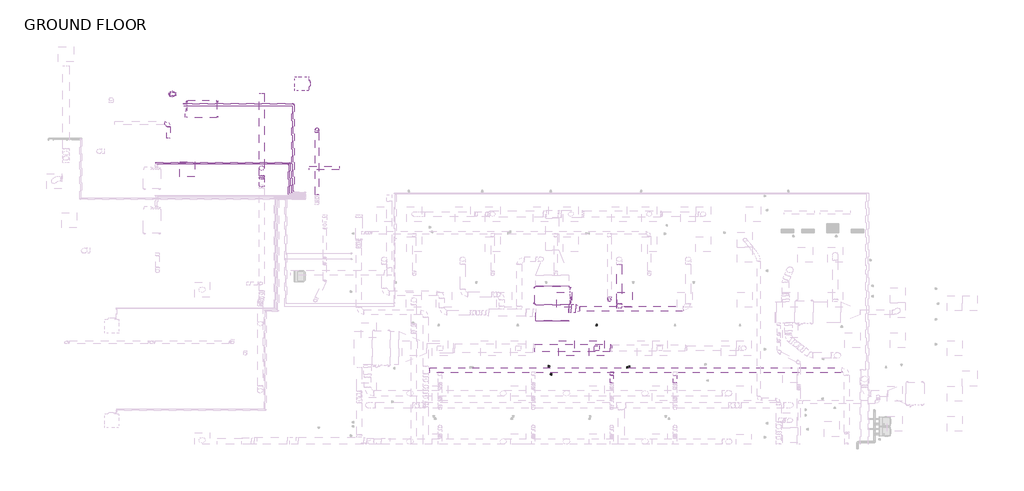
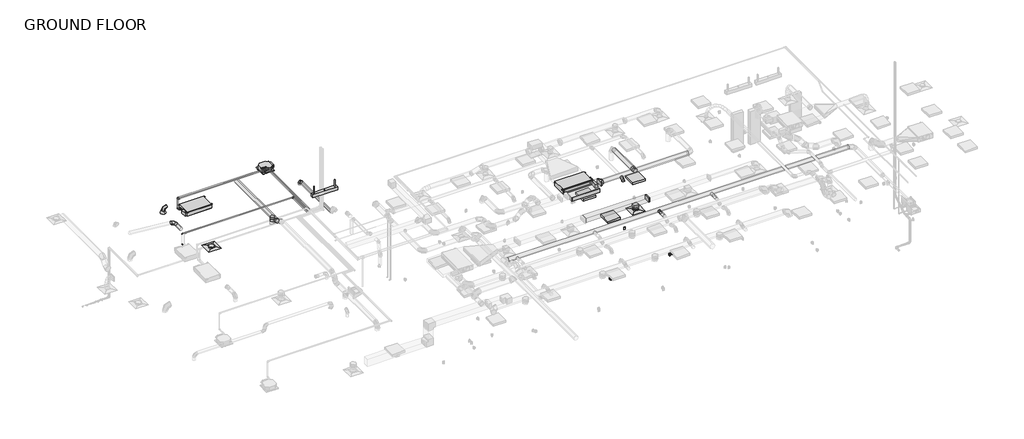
# One storey, part 16 of 20: 17 duct segments, 16 duct fittings, 12 pipe fittings, 12 pipe segments, 7 proxies, 4 light fixtures, 2 air terminals, 1 switching device.
"""IFC4 building model written with IfcOpenShell, lengths in millimetres."""

from ifc_helpers import new_model, si_unit, point, frame, frame_2d, origin, place, context, project, spatial, polyline, circle_curve, trimmed, segment, composite_curve, outline, extrude, transform, mapped, element, save
from components import air_terminal_a1f6e78c, air_terminal_e9020785, mechanical_equipment_d478180c, mechanical_equipment_2d84379e, mechanical_equipment_2ac3c092, duplex_receptacle_countertop_10251bba, rectangular_endcap_standard_3ad2bc23, rectangular_takeoff_standard_68f80ab3, rectangular_takeoff_standard_d07ea574, rectangular_transition_angle_45_degree_4bc87dcf, rectangular_transition_angle_45_degree_1d311e81, rectangular_to_round_transition_angle_45_degree_8ccbb142, rectangular_to_round_transition_angle_45_degree_5a025447, round_elbow_1_d_b37ad80b, round_elbow_1_d_c80420c1, round_elbow_1_d_e295ca55, round_takeoff_standard_272bb003, round_takeoff_standard_aff246af, round_transition_angle_45_degree_b52f7b1d, suspended_fluorescent_strip_non_hosted_strip_light_1x4_120v_5197bc21, troffer_corner_insert_2x2_3lamp_e67c7f8f, elbow_generic_standard_c06ac706, elbow_generic_standard_738589b0, elbow_generic_standard_9ba8e076, elbow_generic_standard_698ab1fc, elbow_generic_standard_3fcd958e, elbow_generic_standard_371413ad, elbow_generic_standard_e3098451, transition_generic_standard_b8cb4354, transition_generic_standard_d781b39e

model = new_model("IFC4")

# Units and contexts
model_context = context("Model", 3, world=origin())
ifc_project = project(units=[si_unit("LENGTHUNIT", "METRE", prefix="MILLI")], contexts=[model_context])

# Site, building, storey
site = spatial("IfcSite", under=ifc_project)
building = spatial("IfcBuilding", under=site)
storey = spatial("IfcBuildingStorey", under=building, Name="GROUND FLOOR", Elevation=30480.0)

# Air terminals
placement = place(None, origin())
air_terminal_shape = air_terminal_a1f6e78c(model_context)
element("IfcAirTerminal", 1, ObjectType="Supply Diffuser - Rectangular Face Round Neck - Hosted : 24\"x24\" Face 10\" Neck - Hosted", at=placement, inside=storey, context=model_context, shape_type="MappedRepresentation", body=[
    mapped(air_terminal_shape, transform((-14215.1079607, 8625.8820005, 32715.2), x_axis=(-1.0, 0.0, 0.0), y_axis=(0.0, 1.0, 0.0), z_axis=(0.0, 0.0, -1.0))),
])
air_terminal_2_shape = air_terminal_e9020785(model_context)
element("IfcAirTerminal", 2, ObjectType="Supply Diffuser - Rectangular Face Round Neck - Hosted : 24\"x24\" Face 8\" Neck - Hosted", at=placement, inside=storey, context=model_context, shape_type="MappedRepresentation", body=[
    mapped(air_terminal_2_shape, transform((2372.6795393, 1382.1195005, 33223.2), x_axis=(0.0, -1.0, 0.0), y_axis=(-1.0, 0.0, 0.0), z_axis=(0.0, 0.0, -1.0))),
])

# Proxies
mechanical_equipment_shape = mechanical_equipment_d478180c(model_context)
element("IfcBuildingElementProxy", 3, Name="PEFY-P-NMAU-E_Medium_Static_Ducted : PEFY-P48NMAU-E", ObjectType="PEFY-P-NMAU-E_Medium_Static_Ducted : PEFY-P48NMAU-E", at=placement, inside=storey, context=model_context, shape_type="MappedRepresentation", body=[
    mapped(mechanical_equipment_shape, transform((586.0058148, 3462.779527, 33788.35), x_axis=(1.0, 0.0, 0.0), y_axis=(0.0, 1.0, 0.0), z_axis=(0.0, 0.0, 1.0))),
])
mechanical_equipment_2_shape = mechanical_equipment_2d84379e(model_context)
element("IfcBuildingElementProxy", 4, Name="PLFY-P-NCMU-E_4-way_24x24 : PLFY-P12NCMU-E", ObjectType="PLFY-P-NCMU-E_4-way_24x24 : PLFY-P12NCMU-E", at=placement, inside=storey, context=model_context, shape_type="MappedRepresentation", body=[
    mapped(mechanical_equipment_2_shape, transform((-9643.7370237, 12098.6958297, 33020.0), x_axis=(0.0, -1.0, 0.0), y_axis=(-1.0, 0.0, 0.0), z_axis=(0.0, 0.0, -1.0))),
])
mechanical_equipment_3_shape = mechanical_equipment_2ac3c092(model_context)
element("IfcBuildingElementProxy", 5, Name="PEFY-P-NMSU-E_Low_Profile_Ducted : PEFY-P24NMSU-E", ObjectType="PEFY-P-NMSU-E_Low_Profile_Ducted : PEFY-P24NMSU-E", at=placement, inside=storey, context=model_context, shape_type="MappedRepresentation", body=[
    mapped(mechanical_equipment_3_shape, transform((-13605.5079607, 11064.9671849, 33021.690625), x_axis=(-1.0, 0.0, 0.0), y_axis=(0.0, -1.0, 0.0), z_axis=(0.0, 0.0, 1.0))),
])
duplex_receptacle_countertop_shape = duplex_receptacle_countertop_10251bba(model_context)
element("IfcBuildingElementProxy", 6, Name="Duplex Receptacle : Standard", ObjectType="Duplex Receptacle : Standard", at=placement, inside=storey, context=model_context, shape_type="MappedRepresentation", body=[
    mapped(duplex_receptacle_countertop_shape, transform((3715.7045393, 633.4941723, 30937.2), x_axis=(0.0, 1.0, 0.0), y_axis=(0.0, 0.0, 1.0), z_axis=(1.0, 0.0, 0.0))),
])
element("IfcBuildingElementProxy", 7, Name="Duplex Receptacle : Standard", ObjectType="Duplex Receptacle : Standard", at=placement, inside=storey, context=model_context, shape_type="MappedRepresentation", body=[
    mapped(duplex_receptacle_countertop_shape, transform((3591.8795393, 600.4356606, 30937.2), x_axis=(0.0, -1.0, 0.0), y_axis=(0.0, 0.0, 1.0), z_axis=(-1.0, 0.0, 0.0))),
])
element("IfcBuildingElementProxy", 8, Name="Duplex Receptacle : Standard", ObjectType="Duplex Receptacle : Standard", at=placement, inside=storey, context=model_context, shape_type="MappedRepresentation", body=[
    mapped(duplex_receptacle_countertop_shape, transform((420.0545393, 644.5136762, 30937.2), x_axis=(0.0, -1.0, 0.0), y_axis=(0.0, 0.0, 1.0), z_axis=(-1.0, 0.0, 0.0))),
])
element("IfcBuildingElementProxy", 9, Name="Duplex Receptacle : Standard", ObjectType="Duplex Receptacle : Standard", at=placement, inside=storey, context=model_context, shape_type="MappedRepresentation", body=[
    mapped(duplex_receptacle_countertop_shape, transform((543.8795393, 322.3410962, 30937.2), x_axis=(0.0, 1.0, 0.0), y_axis=(0.0, 0.0, 1.0), z_axis=(1.0, 0.0, 0.0))),
])

# Duct fittings
rectangular_endcap_standard_shape = rectangular_endcap_standard_3ad2bc23(model_context)
element("IfcDuctFitting", 10, ObjectType="Rectangular Endcap : Standard", at=placement, inside=storey, context=model_context, shape_type="MappedRepresentation", body=[
    mapped(rectangular_endcap_standard_shape, transform((575.9935718, 2491.3229089, 33947.89375), x_axis=(0.0, -1.0, 0.0), y_axis=(1.0, 0.0, 0.0), z_axis=(0.0, 0.0, 1.0))),
])
rectangular_takeoff_standard_shape = rectangular_takeoff_standard_68f80ab3(model_context)
element("IfcDuctFitting", 11, ObjectType="Rectangular Takeoff : Standard", at=placement, inside=storey, context=model_context, shape_type="MappedRepresentation", body=[
    mapped(rectangular_takeoff_standard_shape, transform((1253.8560718, 2984.6075456, 33947.89375), x_axis=(1.0, 0.0, 0.0), y_axis=(0.0, -1.0, 0.0), z_axis=(0.0, 0.0, -1.0))),
])
rectangular_takeoff_standard_2_shape = rectangular_takeoff_standard_d07ea574(model_context)
element("IfcDuctFitting", 12, ObjectType="Rectangular Takeoff : Standard", at=placement, inside=storey, context=model_context, shape_type="MappedRepresentation", body=[
    mapped(rectangular_takeoff_standard_2_shape, transform((2372.6795393, 1382.1195005, 33502.6), x_axis=(0.0, 0.0, -1.0), y_axis=(1.0, 0.0, 0.0), z_axis=(0.0, -1.0, 0.0))),
])
rectangular_transition_angle_45_degree_shape = rectangular_transition_angle_45_degree_4bc87dcf(model_context)
element("IfcDuctFitting", 13, ObjectType="Rectangular Transition - Angle : 45 Degree", at=placement, inside=storey, context=model_context, shape_type="MappedRepresentation", body=[
    mapped(rectangular_transition_angle_45_degree_shape, transform((575.9935718, 3891.404527, 33934.4), x_axis=(0.0, 1.0, 0.0), y_axis=(-1.0, 0.0, 0.0), z_axis=(0.0, 0.0, 1.0))),
])
rectangular_transition_angle_45_degree_2_shape = rectangular_transition_angle_45_degree_1d311e81(model_context)
element("IfcDuctFitting", 14, ObjectType="Rectangular Transition - Angle : 45 Degree", at=placement, inside=storey, context=model_context, shape_type="MappedRepresentation", body=[
    mapped(rectangular_transition_angle_45_degree_2_shape, transform((2934.6545393, 1382.1195005, 33604.2), x_axis=(1.0, 0.0, 0.0), y_axis=(0.0, 1.0, 0.0), z_axis=(0.0, 0.0, 1.0))),
])
rectangular_to_round_transition_angle_45_degree_shape = rectangular_to_round_transition_angle_45_degree_8ccbb142(model_context)
element("IfcDuctFitting", 15, ObjectType="Rectangular to Round Transition - Angle : 45 Degree", at=placement, inside=storey, context=model_context, shape_type="MappedRepresentation", body=[
    mapped(rectangular_to_round_transition_angle_45_degree_shape, transform((1530.4019781, 2984.6075456, 33947.89375), x_axis=(1.0, 0.0, 0.0), y_axis=(0.0, 1.0, 0.0), z_axis=(0.0, 0.0, 1.0))),
])
rectangular_to_round_transition_angle_45_degree_2_shape = rectangular_to_round_transition_angle_45_degree_5a025447(model_context)
element("IfcDuctFitting", 16, ObjectType="Rectangular to Round Transition - Angle : 45 Degree", at=placement, inside=storey, context=model_context, shape_type="MappedRepresentation", body=[
    mapped(rectangular_to_round_transition_angle_45_degree_2_shape, transform((2372.6795393, 1382.1195005, 33327.975), x_axis=(0.0, 0.0, -1.0), y_axis=(1.0, 0.0, 0.0), z_axis=(0.0, -1.0, 0.0))),
])
round_elbow_1_d_shape = round_elbow_1_d_b37ad80b(model_context)
element("IfcDuctFitting", 17, ObjectType="Round Elbow : 1 D", at=placement, inside=storey, context=model_context, shape_type="MappedRepresentation", body=[
    mapped(round_elbow_1_d_shape, transform((-14824.7079607, 11673.8820005, 33121.6), x_axis=(0.0, 0.0, 1.0), y_axis=(1.0, 0.0, 0.0), z_axis=(0.0, 1.0, 0.0))),
])
element("IfcDuctFitting", 18, ObjectType="Round Elbow : 1 D", at=placement, inside=storey, context=model_context, shape_type="MappedRepresentation", body=[
    mapped(round_elbow_1_d_shape, transform((-14970.033703, 10498.3395797, 33121.6), x_axis=(0.0, 1.0, 0.0), y_axis=(-0.9961916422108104, 0.0, 0.08719066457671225), z_axis=(0.08719066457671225, 0.0, 0.9961916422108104))),
])
round_elbow_1_d_2_shape = round_elbow_1_d_c80420c1(model_context)
element("IfcDuctFitting", 19, ObjectType="Round Elbow : 1 D", at=placement, inside=storey, context=model_context, shape_type="MappedRepresentation", body=[
    mapped(round_elbow_1_d_2_shape, transform((2896.5545393, 3334.7445005, 33464.5), x_axis=(0.0, -1.0, 0.0), y_axis=(0.0, 0.0, -1.0), z_axis=(1.0, 0.0, 0.0))),
])
element("IfcDuctFitting", 20, ObjectType="Round Elbow : 1 D", at=placement, inside=storey, context=model_context, shape_type="MappedRepresentation", body=[
    mapped(round_elbow_1_d_2_shape, transform((-8950.9579607, 10246.7195005, 33324.8), x_axis=(0.0, 0.0, 1.0), y_axis=(0.0, -1.0, 0.0), z_axis=(1.0, 0.0, 0.0))),
])
round_elbow_1_d_3_shape = round_elbow_1_d_e295ca55(model_context)
element("IfcDuctFitting", 21, ObjectType="Round Elbow : 1 D", at=placement, inside=storey, context=model_context, shape_type="MappedRepresentation", body=[
    mapped(round_elbow_1_d_3_shape, transform((-11194.8892107, 8307.3750179, 33197.8), x_axis=(0.0, -1.0, 0.0), y_axis=(0.0, 0.0, 1.0), z_axis=(-1.0, 0.0, 0.0))),
])
round_takeoff_standard_shape = round_takeoff_standard_272bb003(model_context)
element("IfcDuctFitting", 22, ObjectType="Round Takeoff : Standard", at=placement, inside=storey, context=model_context, shape_type="MappedRepresentation", body=[
    mapped(round_takeoff_standard_shape, transform((2982.2795393, 391.7414929, 33528.0), x_axis=(0.0, -1.0, 0.0), y_axis=(-1.0, 0.0, 0.0), z_axis=(0.0, 0.0, -1.0))),
])
round_takeoff_standard_2_shape = round_takeoff_standard_aff246af(model_context)
element("IfcDuctFitting", 23, ObjectType="Round Takeoff : Standard", at=placement, inside=storey, context=model_context, shape_type="MappedRepresentation", body=[
    mapped(round_takeoff_standard_2_shape, transform((3287.0795393, 3086.2075456, 33947.89375), x_axis=(0.0, 1.0, 0.0), y_axis=(1.0, 0.0, 0.0), z_axis=(0.0, 0.0, -1.0))),
])
element("IfcDuctFitting", 24, ObjectType="Round Takeoff : Standard", at=placement, inside=storey, context=model_context, shape_type="MappedRepresentation", body=[
    mapped(round_takeoff_standard_2_shape, transform((-11194.8892107, 8675.0945005, 33096.2), x_axis=(0.0, 0.0, -1.0), y_axis=(-1.0, 0.0, 0.0), z_axis=(0.0, 1.0, 0.0))),
])
round_transition_angle_45_degree_shape = round_transition_angle_45_degree_b52f7b1d(model_context)
element("IfcDuctFitting", 25, ObjectType="Round Transition - Angle : 45 Degree", at=placement, inside=storey, context=model_context, shape_type="MappedRepresentation", body=[
    mapped(round_transition_angle_45_degree_shape, transform((-14824.7079607, 11673.8820005, 32846.557951), x_axis=(0.0, 0.0, 1.0), y_axis=(0.0, 1.0, 0.0), z_axis=(-1.0, 0.0, 0.0))),
])

# Duct segments
element("IfcDuctSegment", 26, ObjectType="Mitered Elbows / Taps", at=placement, inside=storey, context=model_context, shape_type="SweptSolid", body=[
    extrude(outline(polyline([(-128.2244362, 1229.7195005), (-128.2244362, 1534.5195005), (2934.6545393, 1534.5195005), (2934.6545393, 1229.7195005), (-128.2244362, 1229.7195005)])), frame((0.0, 0.0, 33502.6), z_axis=(0.0, 0.0, 1.0), x_axis=(1.0, 0.0, 0.0)), (0.0, 0.0, 1.0), 203.2),
])
element("IfcDuctSegment", 27, ObjectType="Mitered Elbows / Taps", at=placement, inside=storey, context=model_context, shape_type="SweptSolid", body=[
    extrude(outline(polyline([(2271.0795393, 1483.7195005), (2474.2795393, 1483.7195005), (2474.2795393, 1280.5195005), (2271.0795393, 1280.5195005), (2271.0795393, 1483.7195005)])), frame((0.0, 0.0, 33327.975), z_axis=(0.0, 0.0, 1.0), x_axis=(1.0, 0.0, 0.0)), (0.0, 0.0, 1.0), 73.025),
])
element("IfcDuctSegment", 28, ObjectType="Mitered Elbows / Taps", at=placement, inside=storey, context=model_context, shape_type="SweptSolid", body=[
    extrude(outline(polyline([(1530.4019781, 3149.7075456), (1530.4019781, 2819.5075456), (1355.4560718, 2819.5075456), (1355.4560718, 3149.7075456), (1530.4019781, 3149.7075456)])), frame((0.0, 0.0, 33858.99375), z_axis=(0.0, 0.0, 1.0), x_axis=(1.0, 0.0, 0.0)), (0.0, 0.0, 1.0), 177.8),
])
element("IfcDuctSegment", 29, ObjectType="Mitered Elbows / Tees", at=placement, inside=storey, context=model_context, shape_type="SweptSolid", body=[
    extrude(outline(polyline([(-101.8689282, 3145.279527), (1253.8560718, 3145.279527), (1253.8560718, 2491.3229089), (-101.8689282, 2491.3229089), (-101.8689282, 3145.279527)])), frame((0.0, 0.0, 33858.2), z_axis=(0.0, 0.0, 1.0), x_axis=(1.0, 0.0, 0.0)), (0.0, 0.0, 1.0), 179.3875),
])
element("IfcDuctSegment", 30, ObjectType="Taps / Short Radius", at=placement, inside=storey, context=model_context, shape_type="SweptSolid", body=[
    extrude(outline(composite_curve([segment(trimmed(circle_curve(frame_2d((-14824.7079607, 11673.8820005)), 127.0), [point((-14824.7079607, 11546.8820005))], [point((-14951.7079607, 11673.8820005))], False, "CARTESIAN"), True, "CONTINUOUS"), segment(trimmed(circle_curve(frame_2d((-14824.7079607, 11673.8820005)), 127.0), [point((-14951.7079607, 11673.8820005))], [point((-14824.7079607, 11800.8820005))], False, "CARTESIAN"), True, "CONTINUOUS"), segment(trimmed(circle_curve(frame_2d((-14824.7079607, 11673.8820005)), 127.0), [point((-14824.7079607, 11800.8820005))], [point((-14697.7079607, 11673.8820005))], False, "CARTESIAN"), True, "CONTINUOUS"), segment(trimmed(circle_curve(frame_2d((-14824.7079607, 11673.8820005)), 127.0), [point((-14697.7079607, 11673.8820005))], [point((-14824.7079607, 11546.8820005))], False, "CARTESIAN"), True, "CONTINUOUS")], self_intersect=False)), frame((0.0, 0.0, 32816.8), z_axis=(0.0, 0.0, 1.0), x_axis=(1.0, 0.0, 0.0)), (0.0, 0.0, 1.0), 29.757951),
])
element("IfcDuctSegment", 31, ObjectType="Taps / Short Radius", at=placement, inside=storey, context=model_context, shape_type="SweptSolid", body=[
    extrude(outline(composite_curve([segment(trimmed(circle_curve(frame_2d((33197.8, -11194.8892107)), 101.6), [point((33197.8, -11296.4892107))], [point((33096.2, -11194.8892107))], False, "CARTESIAN"), True, "CONTINUOUS"), segment(trimmed(circle_curve(frame_2d((33197.8, -11194.8892107)), 101.6), [point((33096.2, -11194.8892107))], [point((33197.8, -11093.2892107))], False, "CARTESIAN"), True, "CONTINUOUS"), segment(trimmed(circle_curve(frame_2d((33197.8, -11194.8892107)), 101.6), [point((33197.8, -11093.2892107))], [point((33299.4, -11194.8892107))], False, "CARTESIAN"), True, "CONTINUOUS"), segment(trimmed(circle_curve(frame_2d((33197.8, -11194.8892107)), 101.6), [point((33299.4, -11194.8892107))], [point((33197.8, -11296.4892107))], False, "CARTESIAN"), True, "CONTINUOUS")], self_intersect=False)), frame((0.0, 8356.2539246, 0.0), z_axis=(0.0, 1.0, 0.0), x_axis=(0.0, 0.0, 1.0)), (0.0, 0.0, 1.0), 3343.0588376),
])
element("IfcDuctSegment", 32, ObjectType="Taps / Short Radius", at=placement, inside=storey, context=model_context, shape_type="SweptSolid", body=[
    extrude(outline(composite_curve([segment(trimmed(circle_curve(frame_2d((0.0, 101.6)), 101.6), [point((-101.6, 101.6))], [point((0.0, 203.2))], False, "CARTESIAN"), True, "CONTINUOUS"), segment(trimmed(circle_curve(frame_2d((0.0, 101.6)), 101.6), [point((0.0, 203.2))], [point((101.6, 101.6))], False, "CARTESIAN"), True, "CONTINUOUS"), segment(trimmed(circle_curve(frame_2d((0.0, 101.6)), 101.6), [point((101.6, 101.6))], [point((0.0, 0.0))], False, "CARTESIAN"), True, "CONTINUOUS"), segment(trimmed(circle_curve(frame_2d((0.0, 101.6)), 101.6), [point((0.0, 0.0))], [point((-101.6, 101.6))], False, "CARTESIAN"), True, "CONTINUOUS")], self_intersect=False)), frame((-11194.8892107, 8217.6378472, 33129.5435153), z_axis=(0.0, -0.8906052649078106, 0.4547771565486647), x_axis=(1.0, 0.0, 0.0)), (0.0, 0.0, 1.0), 349.0544267),
])
element("IfcDuctSegment", 33, ObjectType="Taps / Short Radius", at=placement, inside=storey, context=model_context, shape_type="SweptSolid", body=[
    extrude(outline(composite_curve([segment(trimmed(circle_curve(frame_2d((2984.6075456, 33947.89375)), 101.6), [point((3086.2075456, 33947.89375))], [point((2984.6075456, 33846.29375))], False, "CARTESIAN"), True, "CONTINUOUS"), segment(trimmed(circle_curve(frame_2d((2984.6075456, 33947.89375)), 101.6), [point((2984.6075456, 33846.29375))], [point((2883.0075456, 33947.89375))], False, "CARTESIAN"), True, "CONTINUOUS"), segment(trimmed(circle_curve(frame_2d((2984.6075456, 33947.89375)), 101.6), [point((2883.0075456, 33947.89375))], [point((2984.6075456, 34049.49375))], False, "CARTESIAN"), True, "CONTINUOUS"), segment(trimmed(circle_curve(frame_2d((2984.6075456, 33947.89375)), 101.6), [point((2984.6075456, 34049.49375))], [point((3086.2075456, 33947.89375))], False, "CARTESIAN"), True, "CONTINUOUS")], self_intersect=False)), frame((1683.7045393, 0.0, 0.0), z_axis=(1.0, 0.0, 0.0), x_axis=(0.0, 1.0, 0.0)), (0.0, 0.0, 1.0), 4191.0),
])
element("IfcDuctSegment", 34, ObjectType="Taps / Short Radius", at=placement, inside=storey, context=model_context, shape_type="SweptSolid", body=[
    extrude(outline(composite_curve([segment(trimmed(circle_curve(frame_2d((33947.89375, 3287.0795393)), 101.6), [point((33947.89375, 3185.4795393))], [point((33846.29375, 3287.0795393))], False, "CARTESIAN"), True, "CONTINUOUS"), segment(trimmed(circle_curve(frame_2d((33947.89375, 3287.0795393)), 101.6), [point((33846.29375, 3287.0795393))], [point((33947.89375, 3388.6795393))], False, "CARTESIAN"), True, "CONTINUOUS"), segment(trimmed(circle_curve(frame_2d((33947.89375, 3287.0795393)), 101.6), [point((33947.89375, 3388.6795393))], [point((34049.49375, 3287.0795393))], False, "CARTESIAN"), True, "CONTINUOUS"), segment(trimmed(circle_curve(frame_2d((33947.89375, 3287.0795393)), 101.6), [point((34049.49375, 3287.0795393))], [point((33947.89375, 3185.4795393))], False, "CARTESIAN"), True, "CONTINUOUS")], self_intersect=False)), frame((0.0, 3187.8075456, 0.0), z_axis=(0.0, 1.0, 0.0), x_axis=(0.0, 0.0, 1.0)), (0.0, 0.0, 1.0), 1591.5619549),
])
element("IfcDuctSegment", 35, ObjectType="Taps / Short Radius", at=placement, inside=storey, context=model_context, shape_type="SweptSolid", body=[
    extrude(outline(composite_curve([segment(trimmed(circle_curve(frame_2d((0.0, 63.5)), 63.5), [point((-63.5, 63.5))], [point((0.0, 127.0))], False, "CARTESIAN"), True, "CONTINUOUS"), segment(trimmed(circle_curve(frame_2d((0.0, 63.5)), 63.5), [point((0.0, 127.0))], [point((63.5, 63.5))], False, "CARTESIAN"), True, "CONTINUOUS"), segment(trimmed(circle_curve(frame_2d((0.0, 63.5)), 63.5), [point((63.5, 63.5))], [point((0.0, 0.0))], False, "CARTESIAN"), True, "CONTINUOUS"), segment(trimmed(circle_curve(frame_2d((0.0, 63.5)), 63.5), [point((0.0, 0.0))], [point((-63.5, 63.5))], False, "CARTESIAN"), True, "CONTINUOUS")], self_intersect=False)), frame((2896.5545393, 3271.2445005, 33324.8), z_axis=(0.0, -1.0231815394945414e-12, 1.0), x_axis=(1.0, 0.0, 0.0)), (0.0, 0.0, 1.0), 12.7),
])
element("IfcDuctSegment", 36, ObjectType="Taps / Short Radius", at=placement, inside=storey, context=model_context, shape_type="SweptSolid", body=[
    extrude(outline(composite_curve([segment(trimmed(circle_curve(frame_2d((33121.6, -14970.033703)), 76.2), [point((33121.6, -14893.833703))], [point((33197.8, -14970.033703))], False, "CARTESIAN"), True, "CONTINUOUS"), segment(trimmed(circle_curve(frame_2d((33121.6, -14970.033703)), 76.2), [point((33197.8, -14970.033703))], [point((33121.6, -15046.233703))], False, "CARTESIAN"), True, "CONTINUOUS"), segment(trimmed(circle_curve(frame_2d((33121.6, -14970.033703)), 76.2), [point((33121.6, -15046.233703))], [point((33045.4, -14970.033703))], False, "CARTESIAN"), True, "CONTINUOUS"), segment(trimmed(circle_curve(frame_2d((33121.6, -14970.033703)), 76.2), [point((33045.4, -14970.033703))], [point((33121.6, -14893.833703))], False, "CARTESIAN"), True, "CONTINUOUS")], self_intersect=False)), frame((0.0, 9884.3816287, 0.0), z_axis=(0.0, 1.0, 0.0), x_axis=(0.0, 0.0, 1.0)), (0.0, 0.0, 1.0), 461.557951),
])
element("IfcDuctSegment", 37, ObjectType="Taps / Short Radius", at=placement, inside=storey, context=model_context, shape_type="SweptSolid", body=[
    extrude(outline(composite_curve([segment(trimmed(circle_curve(frame_2d((-11194.8892107, 8675.0945005)), 101.6), [point((-11296.4892107, 8675.0945005))], [point((-11194.8892107, 8776.6945005))], False, "CARTESIAN"), True, "CONTINUOUS"), segment(trimmed(circle_curve(frame_2d((-11194.8892107, 8675.0945005)), 101.6), [point((-11194.8892107, 8776.6945005))], [point((-11093.2892107, 8675.0945005))], False, "CARTESIAN"), True, "CONTINUOUS"), segment(trimmed(circle_curve(frame_2d((-11194.8892107, 8675.0945005)), 101.6), [point((-11093.2892107, 8675.0945005))], [point((-11194.8892107, 8573.4945005))], False, "CARTESIAN"), True, "CONTINUOUS"), segment(trimmed(circle_curve(frame_2d((-11194.8892107, 8675.0945005)), 101.6), [point((-11194.8892107, 8573.4945005))], [point((-11296.4892107, 8675.0945005))], False, "CARTESIAN"), True, "CONTINUOUS")], self_intersect=False)), frame((0.0, 0.0, 32816.8), z_axis=(0.0, 0.0, 1.0), x_axis=(1.0, 0.0, 0.0)), (0.0, 0.0, 1.0), 177.8),
])
element("IfcDuctSegment", 38, ObjectType="Taps / Short Radius", at=placement, inside=storey, context=model_context, shape_type="SweptSolid", body=[
    extrude(outline(composite_curve([segment(trimmed(circle_curve(frame_2d((33324.8, -8950.9579607)), 63.5), [point((33324.8, -9014.4579607))], [point((33261.3, -8950.9579607))], False, "CARTESIAN"), True, "CONTINUOUS"), segment(trimmed(circle_curve(frame_2d((33324.8, -8950.9579607)), 63.5), [point((33261.3, -8950.9579607))], [point((33324.8, -8887.4579607))], False, "CARTESIAN"), True, "CONTINUOUS"), segment(trimmed(circle_curve(frame_2d((33324.8, -8950.9579607)), 63.5), [point((33324.8, -8887.4579607))], [point((33388.3, -8950.9579607))], False, "CARTESIAN"), True, "CONTINUOUS"), segment(trimmed(circle_curve(frame_2d((33324.8, -8950.9579607)), 63.5), [point((33388.3, -8950.9579607))], [point((33324.8, -9014.4579607))], False, "CARTESIAN"), True, "CONTINUOUS")], self_intersect=False)), frame((0.0, 7605.1195005, 0.0), z_axis=(0.0, 1.0, 0.0), x_axis=(0.0, 0.0, 1.0)), (0.0, 0.0, 1.0), 2514.6),
])
element("IfcDuctSegment", 39, ObjectType="Taps / Short Radius", at=placement, inside=storey, context=model_context, shape_type="SweptSolid", body=[
    extrude(outline(composite_curve([segment(trimmed(circle_curve(frame_2d((-8950.9579607, 10246.7195005)), 63.5), [point((-9014.4579607, 10246.7195005))], [point((-8950.9579607, 10310.2195005))], False, "CARTESIAN"), True, "CONTINUOUS"), segment(trimmed(circle_curve(frame_2d((-8950.9579607, 10246.7195005)), 63.5), [point((-8950.9579607, 10310.2195005))], [point((-8887.4579607, 10246.7195005))], False, "CARTESIAN"), True, "CONTINUOUS"), segment(trimmed(circle_curve(frame_2d((-8950.9579607, 10246.7195005)), 63.5), [point((-8887.4579607, 10246.7195005))], [point((-8950.9579607, 10183.2195005))], False, "CARTESIAN"), True, "CONTINUOUS"), segment(trimmed(circle_curve(frame_2d((-8950.9579607, 10246.7195005)), 63.5), [point((-8950.9579607, 10183.2195005))], [point((-9014.4579607, 10246.7195005))], False, "CARTESIAN"), True, "CONTINUOUS")], self_intersect=False)), frame((0.0, 0.0, 33121.6), z_axis=(0.0, 0.0, 1.0), x_axis=(1.0, 0.0, 0.0)), (0.0, 0.0, 1.0), 76.2),
])
element("IfcDuctSegment", 40, ObjectType="Taps / Short Radius", at=placement, inside=storey, context=model_context, shape_type="SweptSolid", body=[
    extrude(outline(composite_curve([segment(trimmed(circle_curve(frame_2d((493.3414929, 33528.0)), 101.6), [point((594.9414929, 33528.0))], [point((493.3414929, 33426.4))], False, "CARTESIAN"), True, "CONTINUOUS"), segment(trimmed(circle_curve(frame_2d((493.3414929, 33528.0)), 101.6), [point((493.3414929, 33426.4))], [point((391.7414929, 33528.0))], False, "CARTESIAN"), True, "CONTINUOUS"), segment(trimmed(circle_curve(frame_2d((493.3414929, 33528.0)), 101.6), [point((391.7414929, 33528.0))], [point((493.3414929, 33629.6))], False, "CARTESIAN"), True, "CONTINUOUS"), segment(trimmed(circle_curve(frame_2d((493.3414929, 33528.0)), 101.6), [point((493.3414929, 33629.6))], [point((594.9414929, 33528.0))], False, "CARTESIAN"), True, "CONTINUOUS")], self_intersect=False)), frame((-4389.576464, 0.0, 0.0), z_axis=(1.0, 0.0, 0.0), x_axis=(0.0, 1.0, 0.0)), (0.0, 0.0, 1.0), 16693.6560033),
])
element("IfcDuctSegment", 41, ObjectType="Taps / Short Radius", at=placement, inside=storey, context=model_context, shape_type="SweptSolid", body=[
    extrude(outline(composite_curve([segment(trimmed(circle_curve(frame_2d((33528.0, 2982.2795393)), 63.5), [point((33528.0, 3045.7795393))], [point((33591.5, 2982.2795393))], False, "CARTESIAN"), True, "CONTINUOUS"), segment(trimmed(circle_curve(frame_2d((33528.0, 2982.2795393)), 63.5), [point((33591.5, 2982.2795393))], [point((33528.0, 2918.7795393))], False, "CARTESIAN"), True, "CONTINUOUS"), segment(trimmed(circle_curve(frame_2d((33528.0, 2982.2795393)), 63.5), [point((33528.0, 2918.7795393))], [point((33464.5, 2982.2795393))], False, "CARTESIAN"), True, "CONTINUOUS"), segment(trimmed(circle_curve(frame_2d((33528.0, 2982.2795393)), 63.5), [point((33464.5, 2982.2795393))], [point((33528.0, 3045.7795393))], False, "CARTESIAN"), True, "CONTINUOUS")], self_intersect=False)), frame((0.0, -23.6803249, 0.0), z_axis=(0.0, 1.0, 0.0), x_axis=(0.0, 0.0, 1.0)), (0.0, 0.0, 1.0), 313.8218179),
])
element("IfcDuctSegment", 42, ObjectType="Taps / Short Radius", at=placement, inside=storey, context=model_context, shape_type="SweptSolid", body=[
    extrude(outline(composite_curve([segment(trimmed(circle_curve(frame_2d((33528.0, 5547.6681472)), 63.5), [point((33528.0, 5611.1681472))], [point((33591.5, 5547.6681472))], False, "CARTESIAN"), True, "CONTINUOUS"), segment(trimmed(circle_curve(frame_2d((33528.0, 5547.6681472)), 63.5), [point((33591.5, 5547.6681472))], [point((33528.0, 5484.1681472))], False, "CARTESIAN"), True, "CONTINUOUS"), segment(trimmed(circle_curve(frame_2d((33528.0, 5547.6681472)), 63.5), [point((33528.0, 5484.1681472))], [point((33464.5, 5547.6681472))], False, "CARTESIAN"), True, "CONTINUOUS"), segment(trimmed(circle_curve(frame_2d((33528.0, 5547.6681472)), 63.5), [point((33464.5, 5547.6681472))], [point((33528.0, 5611.1681472))], False, "CARTESIAN"), True, "CONTINUOUS")], self_intersect=False)), frame((0.0, -23.6803249, 0.0), z_axis=(0.0, 1.0, 0.0), x_axis=(0.0, 0.0, 1.0)), (0.0, 0.0, 1.0), 313.8218179),
])

# Light fixtures
suspended_fluorescent_strip_non_hosted_strip_light_1x4_120v_shape = suspended_fluorescent_strip_non_hosted_strip_light_1x4_120v_5197bc21(model_context)
element("IfcLightFixture", 43, ObjectType="Suspended Fluorescent Strip - Non-Hosted : Strip Light 1x4 - 120V Normal", at=placement, inside=storey, context=model_context, shape_type="MappedRepresentation", body=[
    mapped(suspended_fluorescent_strip_non_hosted_strip_light_1x4_120v_shape, transform((-8654.6826756, 8675.0945005, 33528.0), x_axis=(1.0, 0.0, 0.0), y_axis=(0.0, 1.0, 0.0), z_axis=(0.0, 0.0, 1.0))),
])
troffer_corner_insert_2x2_3lamp_shape = troffer_corner_insert_2x2_3lamp_e67c7f8f(model_context)
element("IfcLightFixture", 44, ObjectType="Troffer Corner Insert : 2x2 3Lamp", at=placement, inside=storey, context=model_context, shape_type="MappedRepresentation", body=[
    mapped(troffer_corner_insert_2x2_3lamp_shape, transform((1067.7545393, 3334.7445005, 30784.8), x_axis=(1.0, 0.0, 0.0), y_axis=(0.0, 1.0, 0.0), z_axis=(0.0, 0.0, 1.0))),
])
element("IfcLightFixture", 45, ObjectType="Troffer Corner Insert : 2x2 3Lamp", at=placement, inside=storey, context=model_context, shape_type="MappedRepresentation", body=[
    mapped(troffer_corner_insert_2x2_3lamp_shape, transform((3506.1545393, 3334.7445005, 30784.8), x_axis=(1.0, 0.0, 0.0), y_axis=(0.0, 1.0, 0.0), z_axis=(0.0, 0.0, 1.0))),
])
element("IfcLightFixture", 46, ObjectType="Troffer Corner Insert : 2x2 3Lamp", at=placement, inside=storey, context=model_context, shape_type="MappedRepresentation", body=[
    mapped(troffer_corner_insert_2x2_3lamp_shape, transform((1153.4795393, 1382.1195005, 30784.8), x_axis=(1.0, 0.0, 0.0), y_axis=(0.0, 1.0, 0.0), z_axis=(0.0, 0.0, 1.0))),
])

# Pipe fittings
elbow_generic_standard_shape = elbow_generic_standard_c06ac706(model_context)
element("IfcPipeFitting", 47, ObjectType="Elbow - Generic : Standard", at=placement, inside=storey, context=model_context, shape_type="MappedRepresentation", body=[
    mapped(elbow_generic_standard_shape, transform((-10108.9967002, 8840.3395774, 33680.4), x_axis=(0.0, 1.0, 0.0), y_axis=(-1.0, 0.0, 0.0), z_axis=(0.0, 0.0, 1.0))),
])
elbow_generic_standard_2_shape = elbow_generic_standard_738589b0(model_context)
element("IfcPipeFitting", 48, ObjectType="Elbow - Generic : Standard", at=placement, inside=storey, context=model_context, shape_type="MappedRepresentation", body=[
    mapped(elbow_generic_standard_2_shape, transform((-14343.6452537, 11191.5268827, 33680.4), x_axis=(0.0, 0.0, 1.0), y_axis=(1.0, 0.0, 0.0), z_axis=(0.0, 1.0, 0.0))),
])
element("IfcPipeFitting", 49, ObjectType="Elbow - Generic : Standard", at=placement, inside=storey, context=model_context, shape_type="MappedRepresentation", body=[
    mapped(elbow_generic_standard_2_shape, transform((-9971.0694154, 11191.5268827, 33680.4), x_axis=(0.0, 1.0, 0.0), y_axis=(-1.0, 0.0, 0.0), z_axis=(0.0, 0.0, 1.0))),
])
element("IfcPipeFitting", 50, ObjectType="Elbow - Generic : Standard", at=placement, inside=storey, context=model_context, shape_type="MappedRepresentation", body=[
    mapped(elbow_generic_standard_2_shape, transform((-15498.3177546, 8891.1395782, 33680.4), x_axis=(0.0, 0.0, 1.0), y_axis=(1.0, 0.0, 0.0), z_axis=(0.0, 1.0, 0.0))),
])
element("IfcPipeFitting", 51, ObjectType="Elbow - Generic : Standard", at=placement, inside=storey, context=model_context, shape_type="MappedRepresentation", body=[
    mapped(elbow_generic_standard_2_shape, transform((-10040.0330578, 8891.1395782, 33680.4), x_axis=(0.0, 1.0, 0.0), y_axis=(-1.0, 0.0, 0.0), z_axis=(0.0, 0.0, 1.0))),
])
elbow_generic_standard_3_shape = elbow_generic_standard_9ba8e076(model_context)
element("IfcPipeFitting", 52, ObjectType="Elbow - Generic : Standard", at=placement, inside=storey, context=model_context, shape_type="MappedRepresentation", body=[
    mapped(elbow_generic_standard_3_shape, transform((-14343.6452537, 11191.5268827, 33121.690625), x_axis=(-1.0, 0.0, 0.0), y_axis=(0.0, 0.0, 1.0), z_axis=(0.0, 1.0, 0.0))),
])
elbow_generic_standard_4_shape = elbow_generic_standard_698ab1fc(model_context)
element("IfcPipeFitting", 53, ObjectType="Elbow - Generic : Standard", at=placement, inside=storey, context=model_context, shape_type="MappedRepresentation", body=[
    mapped(elbow_generic_standard_4_shape, transform((-14350.0454441, 11274.7212423, 33121.690625), x_axis=(-1.0, 0.0, 0.0), y_axis=(0.0, 0.0, 1.0), z_axis=(0.0, 1.0, 0.0))),
])
elbow_generic_standard_5_shape = elbow_generic_standard_3fcd958e(model_context)
element("IfcPipeFitting", 54, ObjectType="Elbow - Generic : Standard", at=placement, inside=storey, context=model_context, shape_type="MappedRepresentation", body=[
    mapped(elbow_generic_standard_5_shape, transform((-14350.0448515, 11274.7212423, 33680.3914063), x_axis=(0.0, 0.0, 1.0), y_axis=(1.0, 0.0, 0.0), z_axis=(0.0, 1.0, 0.0))),
])
elbow_generic_standard_6_shape = elbow_generic_standard_371413ad(model_context)
element("IfcPipeFitting", 55, ObjectType="Elbow - Generic : Standard", at=placement, inside=storey, context=model_context, shape_type="MappedRepresentation", body=[
    mapped(elbow_generic_standard_6_shape, transform((-9902.105773, 11274.7212423, 33680.4), x_axis=(0.0, 1.0, 0.0), y_axis=(-0.9999999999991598, 0.0, -1.2963089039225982e-06), z_axis=(-1.2963089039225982e-06, 0.0, 0.9999999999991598))),
])
elbow_generic_standard_7_shape = elbow_generic_standard_e3098451(model_context)
element("IfcPipeFitting", 56, ObjectType="Elbow - Generic : Standard", at=placement, inside=storey, context=model_context, shape_type="MappedRepresentation", body=[
    mapped(elbow_generic_standard_7_shape, transform((-15498.3177546, 8891.1395782, 33121.6992188), x_axis=(0.0, 0.9999999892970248, -0.00014630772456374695), y_axis=(0.0, 0.00014630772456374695, 0.9999999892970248), z_axis=(1.0, 0.0, 0.0))),
])
transition_generic_standard_shape = transition_generic_standard_b8cb4354(model_context)
element("IfcPipeFitting", 57, ObjectType="Transition - Generic : Standard", at=placement, inside=storey, context=model_context, shape_type="MappedRepresentation", body=[
    mapped(transition_generic_standard_shape, transform((-14343.6452537, 11191.5268827, 33139.128125), x_axis=(0.0, 0.0, 1.0), y_axis=(0.0, 1.0, 0.0), z_axis=(-1.0, 0.0, 0.0))),
])
transition_generic_standard_2_shape = transition_generic_standard_d781b39e(model_context)
element("IfcPipeFitting", 58, ObjectType="Transition - Generic : Standard", at=placement, inside=storey, context=model_context, shape_type="MappedRepresentation", body=[
    mapped(transition_generic_standard_2_shape, transform((-14350.0454441, 11274.7212423, 33145.528125), x_axis=(0.0, 0.0, 1.0), y_axis=(0.0, 1.0, 0.0), z_axis=(-1.0, 0.0, 0.0))),
])

# Pipe segments
element("IfcPipeSegment", 59, ObjectType="Copper Tubing", at=placement, inside=storey, context=model_context, shape_type="SweptSolid", body=[
    extrude(outline(composite_curve([segment(trimmed(circle_curve(frame_2d((-14343.6452537, 11191.5268827)), 11.1125), [point((-14354.7577537, 11191.5268827))], [point((-14343.6452537, 11202.6393827))], False, "CARTESIAN"), True, "CONTINUOUS"), segment(trimmed(circle_curve(frame_2d((-14343.6452537, 11191.5268827)), 11.1125), [point((-14343.6452537, 11202.6393827))], [point((-14332.5327537, 11191.5268827))], False, "CARTESIAN"), True, "CONTINUOUS"), segment(trimmed(circle_curve(frame_2d((-14343.6452537, 11191.5268827)), 11.1125), [point((-14332.5327537, 11191.5268827))], [point((-14343.6452537, 11180.4143827))], False, "CARTESIAN"), True, "CONTINUOUS"), segment(trimmed(circle_curve(frame_2d((-14343.6452537, 11191.5268827)), 11.1125), [point((-14343.6452537, 11180.4143827))], [point((-14354.7577537, 11191.5268827))], False, "CARTESIAN"), True, "CONTINUOUS")], self_intersect=False)), frame((0.0, 0.0, 33144.684375), z_axis=(0.0, 0.0, 1.0), x_axis=(1.0, 0.0, 0.0)), (0.0, 0.0, 1.0), 518.253125),
])
element("IfcPipeSegment", 60, ObjectType="Copper Tubing", at=placement, inside=storey, context=model_context, shape_type="SweptSolid", body=[
    extrude(outline(composite_curve([segment(trimmed(circle_curve(frame_2d((11191.5268827, 33121.690625)), 9.5), [point((11201.0268827, 33121.690625))], [point((11191.5268827, 33112.190625))], False, "CARTESIAN"), True, "CONTINUOUS"), segment(trimmed(circle_curve(frame_2d((11191.5268827, 33121.690625)), 9.5), [point((11191.5268827, 33112.190625))], [point((11182.0268827, 33121.690625))], False, "CARTESIAN"), True, "CONTINUOUS"), segment(trimmed(circle_curve(frame_2d((11191.5268827, 33121.690625)), 9.5), [point((11182.0268827, 33121.690625))], [point((11191.5268827, 33131.190625))], False, "CARTESIAN"), True, "CONTINUOUS"), segment(trimmed(circle_curve(frame_2d((11191.5268827, 33121.690625)), 9.5), [point((11191.5268827, 33131.190625))], [point((11201.0268827, 33121.690625))], False, "CARTESIAN"), True, "CONTINUOUS")], self_intersect=False)), frame((-14326.2077537, 0.0, 0.0), z_axis=(1.0, 0.0, 0.0), x_axis=(0.0, 1.0, 0.0)), (0.0, 0.0, 1.0), 25.399793),
])
element("IfcPipeSegment", 61, ObjectType="Copper Tubing", at=placement, inside=storey, context=model_context, shape_type="SweptSolid", body=[
    extrude(outline(composite_curve([segment(trimmed(circle_curve(frame_2d((0.0, 20.6375)), 20.6375), [point((-20.6375, 20.6375))], [point((0.0, 41.275))], False, "CARTESIAN"), True, "CONTINUOUS"), segment(trimmed(circle_curve(frame_2d((0.0, 20.6375)), 20.6375), [point((0.0, 41.275))], [point((20.6375, 20.6375))], False, "CARTESIAN"), True, "CONTINUOUS"), segment(trimmed(circle_curve(frame_2d((0.0, 20.6375)), 20.6375), [point((20.6375, 20.6375))], [point((0.0, 0.0))], False, "CARTESIAN"), True, "CONTINUOUS"), segment(trimmed(circle_curve(frame_2d((0.0, 20.6375)), 20.6375), [point((0.0, 0.0))], [point((-20.6375, 20.6375))], False, "CARTESIAN"), True, "CONTINUOUS")], self_intersect=False)), frame((-14350.0454441, 11254.0837423, 33155.846875), z_axis=(1.1911870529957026e-06, 0.0, 0.9999999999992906), x_axis=(0.9999999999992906, 0.0, -1.1911870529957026e-06)), (0.0, 0.0, 1.0), 497.5570662),
])
element("IfcPipeSegment", 62, ObjectType="Copper Tubing", at=placement, inside=storey, context=model_context, shape_type="SweptSolid", body=[
    extrude(outline(composite_curve([segment(trimmed(circle_curve(frame_2d((11274.7212423, 33121.690625)), 15.9), [point((11290.6212423, 33121.690625))], [point((11274.7212423, 33105.790625))], False, "CARTESIAN"), True, "CONTINUOUS"), segment(trimmed(circle_curve(frame_2d((11274.7212423, 33121.690625)), 15.9), [point((11274.7212423, 33105.790625))], [point((11258.8212423, 33121.690625))], False, "CARTESIAN"), True, "CONTINUOUS"), segment(trimmed(circle_curve(frame_2d((11274.7212423, 33121.690625)), 15.9), [point((11258.8212423, 33121.690625))], [point((11274.7212423, 33137.590625))], False, "CARTESIAN"), True, "CONTINUOUS"), segment(trimmed(circle_curve(frame_2d((11274.7212423, 33121.690625)), 15.9), [point((11274.7212423, 33137.590625))], [point((11290.6212423, 33121.690625))], False, "CARTESIAN"), True, "CONTINUOUS")], self_intersect=False)), frame((-14326.2079441, 0.0, 0.0), z_axis=(1.0, 0.0, 0.0), x_axis=(0.0, 1.0, 0.0)), (0.0, 0.0, 1.0), 25.3999834),
])
element("IfcPipeSegment", 63, ObjectType="Copper Tubing", at=placement, inside=storey, context=model_context, shape_type="SweptSolid", body=[
    extrude(outline(composite_curve([segment(trimmed(circle_curve(frame_2d((0.0, 20.6375)), 20.6375), [point((-20.6375, 20.6375))], [point((0.0, 41.275))], False, "CARTESIAN"), True, "CONTINUOUS"), segment(trimmed(circle_curve(frame_2d((0.0, 20.6375)), 20.6375), [point((0.0, 41.275))], [point((20.6375, 20.6375))], False, "CARTESIAN"), True, "CONTINUOUS"), segment(trimmed(circle_curve(frame_2d((0.0, 20.6375)), 20.6375), [point((20.6375, 20.6375))], [point((0.0, 0.0))], False, "CARTESIAN"), True, "CONTINUOUS"), segment(trimmed(circle_curve(frame_2d((0.0, 20.6375)), 20.6375), [point((0.0, 0.0))], [point((-20.6375, 20.6375))], False, "CARTESIAN"), True, "CONTINUOUS")], self_intersect=False)), frame((-14323.0573464, 11274.7212423, 33659.7539412), z_axis=(0.9999999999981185, 0.0, 1.9398841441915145e-06), x_axis=(0.0, 1.0, 0.0)), (0.0, 0.0, 1.0), 4393.9641135),
])
element("IfcPipeSegment", 64, ObjectType="Copper Tubing", at=placement, inside=storey, context=model_context, shape_type="SweptSolid", body=[
    extrude(outline(composite_curve([segment(trimmed(circle_curve(frame_2d((33680.4, -9902.105773)), 20.6375), [point((33680.4, -9922.743273))], [point((33659.7625, -9902.105773))], False, "CARTESIAN"), True, "CONTINUOUS"), segment(trimmed(circle_curve(frame_2d((33680.4, -9902.105773)), 20.6375), [point((33659.7625, -9902.105773))], [point((33680.4, -9881.468273))], False, "CARTESIAN"), True, "CONTINUOUS"), segment(trimmed(circle_curve(frame_2d((33680.4, -9902.105773)), 20.6375), [point((33680.4, -9881.468273))], [point((33701.0375, -9902.105773))], False, "CARTESIAN"), True, "CONTINUOUS"), segment(trimmed(circle_curve(frame_2d((33680.4, -9902.105773)), 20.6375), [point((33701.0375, -9902.105773))], [point((33680.4, -9922.743273))], False, "CARTESIAN"), True, "CONTINUOUS")], self_intersect=False)), frame((0.0, 7730.4790784, 0.0), z_axis=(0.0, 1.0, 0.0), x_axis=(0.0, 0.0, 1.0)), (0.0, 0.0, 1.0), 3517.2546639),
])
element("IfcPipeSegment", 65, ObjectType="Copper Tubing", at=placement, inside=storey, context=model_context, shape_type="SweptSolid", body=[
    extrude(outline(composite_curve([segment(trimmed(circle_curve(frame_2d((11191.5268827, 33680.4)), 11.1125), [point((11180.4143827, 33680.4))], [point((11191.5268827, 33691.5125))], False, "CARTESIAN"), True, "CONTINUOUS"), segment(trimmed(circle_curve(frame_2d((11191.5268827, 33680.4)), 11.1125), [point((11191.5268827, 33691.5125))], [point((11202.6393827, 33680.4))], False, "CARTESIAN"), True, "CONTINUOUS"), segment(trimmed(circle_curve(frame_2d((11191.5268827, 33680.4)), 11.1125), [point((11202.6393827, 33680.4))], [point((11191.5268827, 33669.2875))], False, "CARTESIAN"), True, "CONTINUOUS"), segment(trimmed(circle_curve(frame_2d((11191.5268827, 33680.4)), 11.1125), [point((11191.5268827, 33669.2875))], [point((11180.4143827, 33680.4))], False, "CARTESIAN"), True, "CONTINUOUS")], self_intersect=False)), frame((-14326.1827537, 0.0, 0.0), z_axis=(1.0, 0.0, 0.0), x_axis=(0.0, 1.0, 0.0)), (0.0, 0.0, 1.0), 4337.6508384),
])
element("IfcPipeSegment", 66, ObjectType="Copper Tubing", at=placement, inside=storey, context=model_context, shape_type="SweptSolid", body=[
    extrude(outline(composite_curve([segment(trimmed(circle_curve(frame_2d((33680.4, -9971.0694154)), 11.1125), [point((33680.4, -9982.1819154))], [point((33669.2875, -9971.0694154))], False, "CARTESIAN"), True, "CONTINUOUS"), segment(trimmed(circle_curve(frame_2d((33680.4, -9971.0694154)), 11.1125), [point((33669.2875, -9971.0694154))], [point((33680.4, -9959.9569154))], False, "CARTESIAN"), True, "CONTINUOUS"), segment(trimmed(circle_curve(frame_2d((33680.4, -9971.0694154)), 11.1125), [point((33680.4, -9959.9569154))], [point((33691.5125, -9971.0694154))], False, "CARTESIAN"), True, "CONTINUOUS"), segment(trimmed(circle_curve(frame_2d((33680.4, -9971.0694154)), 11.1125), [point((33691.5125, -9971.0694154))], [point((33680.4, -9982.1819154))], False, "CARTESIAN"), True, "CONTINUOUS")], self_intersect=False)), frame((0.0, 7684.0947539, 0.0), z_axis=(0.0, 1.0, 0.0), x_axis=(0.0, 0.0, 1.0)), (0.0, 0.0, 1.0), 3489.9696289),
])
element("IfcPipeSegment", 67, ObjectType="Copper Tubing", at=placement, inside=storey, context=model_context, shape_type="SweptSolid", body=[
    extrude(outline(composite_curve([segment(trimmed(circle_curve(frame_2d((8840.3395774, 33680.4)), 14.2875), [point((8826.0520774, 33680.4))], [point((8840.3395774, 33694.6875))], False, "CARTESIAN"), True, "CONTINUOUS"), segment(trimmed(circle_curve(frame_2d((8840.3395774, 33680.4)), 14.2875), [point((8840.3395774, 33694.6875))], [point((8854.6270774, 33680.4))], False, "CARTESIAN"), True, "CONTINUOUS"), segment(trimmed(circle_curve(frame_2d((8840.3395774, 33680.4)), 14.2875), [point((8854.6270774, 33680.4))], [point((8840.3395774, 33666.1125))], False, "CARTESIAN"), True, "CONTINUOUS"), segment(trimmed(circle_curve(frame_2d((8840.3395774, 33680.4)), 14.2875), [point((8840.3395774, 33666.1125))], [point((8826.0520774, 33680.4))], False, "CARTESIAN"), True, "CONTINUOUS")], self_intersect=False)), frame((-15394.485895, 0.0, 0.0), z_axis=(1.0, 0.0, 0.0), x_axis=(0.0, 1.0, 0.0)), (0.0, 0.0, 1.0), 5264.8516948),
])
element("IfcPipeSegment", 68, ObjectType="Copper Tubing", at=placement, inside=storey, context=model_context, shape_type="SweptSolid", body=[
    extrude(outline(composite_curve([segment(trimmed(circle_curve(frame_2d((33680.4, -10108.9967002)), 14.2875), [point((33680.4, -10123.2842002))], [point((33666.1125, -10108.9967002))], False, "CARTESIAN"), True, "CONTINUOUS"), segment(trimmed(circle_curve(frame_2d((33680.4, -10108.9967002)), 14.2875), [point((33666.1125, -10108.9967002))], [point((33680.4, -10094.7092002))], False, "CARTESIAN"), True, "CONTINUOUS"), segment(trimmed(circle_curve(frame_2d((33680.4, -10108.9967002)), 14.2875), [point((33680.4, -10094.7092002))], [point((33694.6875, -10108.9967002))], False, "CARTESIAN"), True, "CONTINUOUS"), segment(trimmed(circle_curve(frame_2d((33680.4, -10108.9967002)), 14.2875), [point((33694.6875, -10108.9967002))], [point((33680.4, -10123.2842002))], False, "CARTESIAN"), True, "CONTINUOUS")], self_intersect=False)), frame((0.0, 7621.2976211, 0.0), z_axis=(0.0, 1.0, 0.0), x_axis=(0.0, 0.0, 1.0)), (0.0, 0.0, 1.0), 1198.4044563),
])
element("IfcPipeSegment", 69, ObjectType="Copper Tubing", at=placement, inside=storey, context=model_context, shape_type="SweptSolid", body=[
    extrude(outline(composite_curve([segment(trimmed(circle_curve(frame_2d((8891.1395782, 33680.4)), 11.1125), [point((8880.0270782, 33680.4))], [point((8891.1395782, 33691.5125))], False, "CARTESIAN"), True, "CONTINUOUS"), segment(trimmed(circle_curve(frame_2d((8891.1395782, 33680.4)), 11.1125), [point((8891.1395782, 33691.5125))], [point((8902.2520782, 33680.4))], False, "CARTESIAN"), True, "CONTINUOUS"), segment(trimmed(circle_curve(frame_2d((8891.1395782, 33680.4)), 11.1125), [point((8902.2520782, 33680.4))], [point((8891.1395782, 33669.2875))], False, "CARTESIAN"), True, "CONTINUOUS"), segment(trimmed(circle_curve(frame_2d((8891.1395782, 33680.4)), 11.1125), [point((8891.1395782, 33669.2875))], [point((8880.0270782, 33680.4))], False, "CARTESIAN"), True, "CONTINUOUS")], self_intersect=False)), frame((-15480.8552546, 0.0, 0.0), z_axis=(1.0, 0.0, 0.0), x_axis=(0.0, 1.0, 0.0)), (0.0, 0.0, 1.0), 5423.3596968),
])
element("IfcPipeSegment", 70, ObjectType="Copper Tubing", at=placement, inside=storey, context=model_context, shape_type="SweptSolid", body=[
    extrude(outline(composite_curve([segment(trimmed(circle_curve(frame_2d((33680.4, -10040.0330578)), 11.1125), [point((33680.4, -10051.1455578))], [point((33669.2875, -10040.0330578))], False, "CARTESIAN"), True, "CONTINUOUS"), segment(trimmed(circle_curve(frame_2d((33680.4, -10040.0330578)), 11.1125), [point((33669.2875, -10040.0330578))], [point((33680.4, -10028.9205578))], False, "CARTESIAN"), True, "CONTINUOUS"), segment(trimmed(circle_curve(frame_2d((33680.4, -10040.0330578)), 11.1125), [point((33680.4, -10028.9205578))], [point((33691.5125, -10040.0330578))], False, "CARTESIAN"), True, "CONTINUOUS"), segment(trimmed(circle_curve(frame_2d((33680.4, -10040.0330578)), 11.1125), [point((33691.5125, -10040.0330578))], [point((33680.4, -10051.1455578))], False, "CARTESIAN"), True, "CONTINUOUS")], self_intersect=False)), frame((0.0, 7651.1086875, 0.0), z_axis=(0.0, 1.0, 0.0), x_axis=(0.0, 0.0, 1.0)), (0.0, 0.0, 1.0), 1222.5683907),
])

# Switching device
element("IfcSwitchingDevice", 71, ObjectType="Lighting Switches : Single Pole", at=placement, inside=storey, context=model_context, shape_type="MappedRepresentation", body=[
    mapped(duplex_receptacle_countertop_shape, transform((2374.7139337, 2296.5195005, 31699.2), x_axis=(1.0, 0.0, 0.0), y_axis=(0.0, 0.0, 1.0), z_axis=(0.0, -1.0, 0.0))),
])

save(model, "model.ifc")
